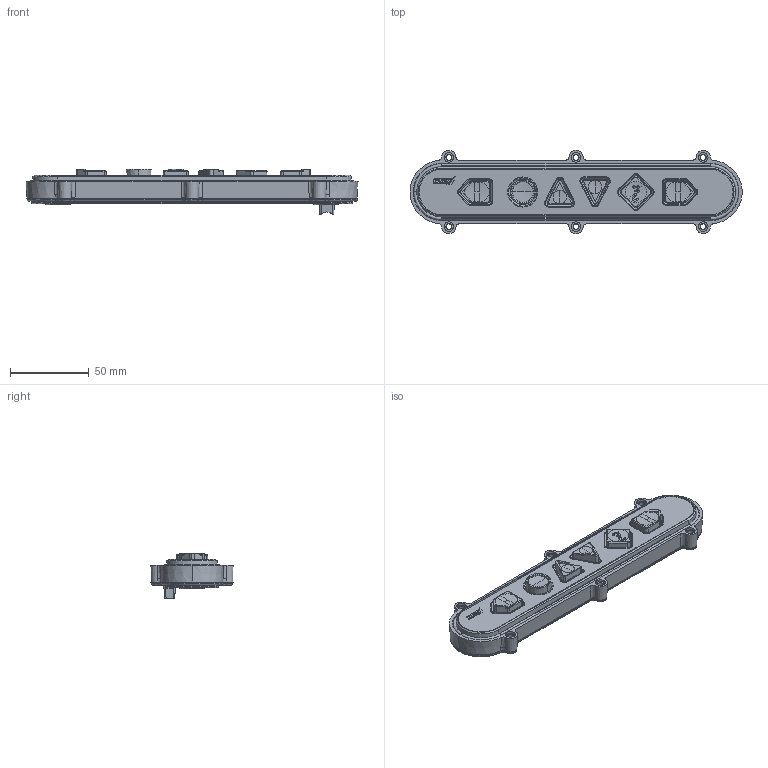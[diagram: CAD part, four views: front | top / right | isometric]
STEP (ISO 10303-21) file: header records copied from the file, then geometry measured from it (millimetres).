
FILE_DESCRIPTION (( 'STEP AP214' ), '1' );
FILE_NAME ('Under panel Nav-bar.STEP', '2017-04-21T09:53:05', ( '' ), ( '' ), 'SwSTEP 2.0', 'SolidWorks 2017', '' );
FILE_SCHEMA (( 'AUTOMOTIVE_DESIGN' ));
Length unit declared in the file: millimetre
Products named in the file (1): Under panel Nav-bar
Bounding box: 211.42 x 53 x 28.88 mm (x, y, z)
Surface area: 42564.4 mm2 (no closed solid volume)
Topology: 0 solids, 26 shells, 917 faces, 3257 edges, 2316 vertices
Faces by surface type: plane 424, cone 258, cylinder 84, torus 71, bspline 66, sphere 14
Entity records: 47478 total; most frequent: CARTESIAN_POINT 10091, DIRECTION 5605, ORIENTED_EDGE 5277, EDGE_CURVE 3255, VERTEX_POINT 2316, VECTOR 1907, LINE 1907, AXIS2_PLACEMENT_3D 1849
